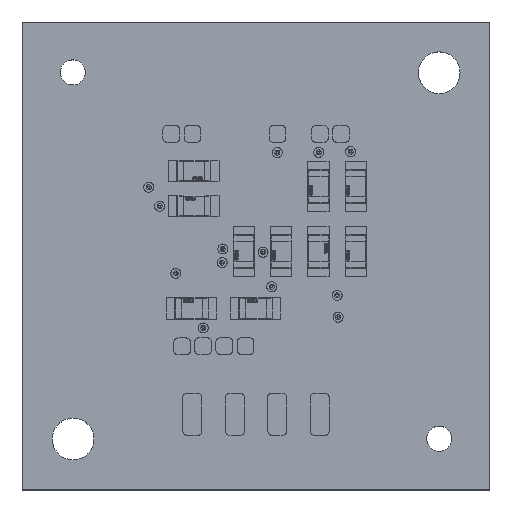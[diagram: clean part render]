
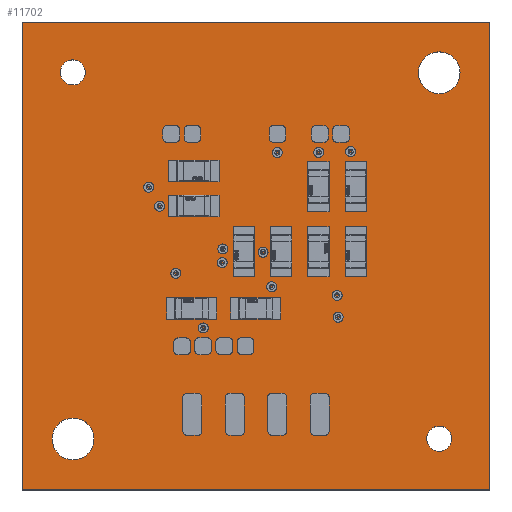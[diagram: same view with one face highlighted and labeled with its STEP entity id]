
A CAD part, top view. The second image highlights one B-rep face of the part: STEP entity #11702.
In plain terms, the highlighted planar face has unit normal (0, 0, 1).
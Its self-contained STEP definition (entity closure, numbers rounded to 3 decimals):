
#1083 = DIRECTION ( 'NONE',  ( 1., 0., 0. ) ) ;
#1353 = CARTESIAN_POINT ( 'NONE',  ( -11.719, 10.987, 0. ) ) ;
#2292 = CARTESIAN_POINT ( 'NONE',  ( 10.951, -10.933, 0. ) ) ;
#2314 = AXIS2_PLACEMENT_3D ( 'NONE', #2292, #83840, #14002 ) ;
#3750 = CARTESIAN_POINT ( 'NONE',  ( -12.205, -10.949, 0. ) ) ;
#4183 = DIRECTION ( 'NONE',  ( 0., 1., 0. ) ) ;
#5417 = ORIENTED_EDGE ( 'NONE', *, *, #71873, .T. ) ;
#6305 = EDGE_CURVE ( 'NONE', #137634, #25499, #51044, .T. ) ;
#6405 = CARTESIAN_POINT ( 'NONE',  ( -14.01, 14.002, 0. ) ) ;
#8314 = EDGE_CURVE ( 'NONE', #143144, #121462, #121235, .T. ) ;
#9367 = ORIENTED_EDGE ( 'NONE', *, *, #119108, .F. ) ;
#11702 = ADVANCED_FACE ( 'NONE', ( #46576, #136026, #77656, #74005, #42940 ), #93838, .T. ) ;
#13434 = CARTESIAN_POINT ( 'NONE',  ( 13.99, -13.998, 0. ) ) ;
#14002 = DIRECTION ( 'NONE',  ( -1., 0., 0. ) ) ;
#22916 = ORIENTED_EDGE ( 'NONE', *, *, #80443, .F. ) ;
#23209 = VECTOR ( 'NONE', #147215, 1000. ) ;
#25051 = AXIS2_PLACEMENT_3D ( 'NONE', #49608, #131217, #61347 ) ;
#25372 = CARTESIAN_POINT ( 'NONE',  ( -10.955, -10.949, 0. ) ) ;
#25499 = VERTEX_POINT ( 'NONE', #92734 ) ;
#25511 = AXIS2_PLACEMENT_3D ( 'NONE', #64858, #146386, #76581 ) ;
#31729 = CIRCLE ( 'NONE', #53578, 1.25 ) ;
#31851 = CARTESIAN_POINT ( 'NONE',  ( -14.01, -13.998, 0. ) ) ;
#32114 = VERTEX_POINT ( 'NONE', #1353 ) ;
#34339 = DIRECTION ( 'NONE',  ( 0., 0., -1. ) ) ;
#34576 = CARTESIAN_POINT ( 'NONE',  ( 10.201, -10.933, 0. ) ) ;
#34585 = CIRCLE ( 'NONE', #2314, 0.75 ) ;
#37075 = DIRECTION ( 'NONE',  ( -1., 0., 0. ) ) ;
#39782 = AXIS2_PLACEMENT_3D ( 'NONE', #140693, #70856, #1083 ) ;
#42010 = DIRECTION ( 'NONE',  ( 1., 0., 0. ) ) ;
#42226 = VERTEX_POINT ( 'NONE', #13434 ) ;
#42940 = FACE_OUTER_BOUND ( 'NONE', #52584, .T. ) ;
#43641 = EDGE_LOOP ( 'NONE', ( #72766, #54724 ) ) ;
#44922 = EDGE_CURVE ( 'NONE', #88584, #42226, #137749, .T. ) ;
#44941 = EDGE_CURVE ( 'NONE', #146548, #115351, #79403, .T. ) ;
#46421 = ORIENTED_EDGE ( 'NONE', *, *, #52316, .T. ) ;
#46479 = ORIENTED_EDGE ( 'NONE', *, *, #44941, .T. ) ;
#46576 = FACE_BOUND ( 'NONE', #72749, .T. ) ;
#46636 = ORIENTED_EDGE ( 'NONE', *, *, #6305, .F. ) ;
#47909 = ORIENTED_EDGE ( 'NONE', *, *, #124061, .T. ) ;
#49608 = CARTESIAN_POINT ( 'NONE',  ( -10.969, 10.987, 0. ) ) ;
#50237 = EDGE_LOOP ( 'NONE', ( #46479, #67581 ) ) ;
#51044 = LINE ( 'NONE', #74032, #140417 ) ;
#52316 = EDGE_CURVE ( 'NONE', #64451, #131757, #31729, .T. ) ;
#52584 = EDGE_LOOP ( 'NONE', ( #22916, #46636, #9367, #135435 ) ) ;
#53578 = AXIS2_PLACEMENT_3D ( 'NONE', #62384, #143986, #74159 ) ;
#53974 = CARTESIAN_POINT ( 'NONE',  ( 13.99, -13.998, 0. ) ) ;
#54724 = ORIENTED_EDGE ( 'NONE', *, *, #8314, .T. ) ;
#59484 = CARTESIAN_POINT ( 'NONE',  ( -9.705, -10.949, 0. ) ) ;
#61347 = DIRECTION ( 'NONE',  ( -1., 0., 0. ) ) ;
#62384 = CARTESIAN_POINT ( 'NONE',  ( 10.95, 10.966, 0. ) ) ;
#63280 = CARTESIAN_POINT ( 'NONE',  ( 9.7, 10.966, 0. ) ) ;
#63405 = DIRECTION ( 'NONE',  ( 0., 0., -1. ) ) ;
#63924 = CARTESIAN_POINT ( 'NONE',  ( 10.95, 10.966, 0. ) ) ;
#64451 = VERTEX_POINT ( 'NONE', #63280 ) ;
#64858 = CARTESIAN_POINT ( 'NONE',  ( -10.969, 10.987, 0. ) ) ;
#67581 = ORIENTED_EDGE ( 'NONE', *, *, #73228, .T. ) ;
#68381 = AXIS2_PLACEMENT_3D ( 'NONE', #63924, #145482, #75671 ) ;
#68529 = CARTESIAN_POINT ( 'NONE',  ( 12.2, 10.966, 0. ) ) ;
#68657 = AXIS2_PLACEMENT_3D ( 'NONE', #104209, #34339, #115951 ) ;
#70856 = DIRECTION ( 'NONE',  ( 0., 0., 1. ) ) ;
#71873 = EDGE_CURVE ( 'NONE', #121394, #32114, #119310, .T. ) ;
#72749 = EDGE_LOOP ( 'NONE', ( #46421, #47909 ) ) ;
#72766 = ORIENTED_EDGE ( 'NONE', *, *, #105460, .T. ) ;
#73228 = EDGE_CURVE ( 'NONE', #115351, #146548, #34585, .T. ) ;
#73449 = LINE ( 'NONE', #6405, #100875 ) ;
#74005 = FACE_BOUND ( 'NONE', #43641, .T. ) ;
#74032 = CARTESIAN_POINT ( 'NONE',  ( -14.01, -13.998, 0. ) ) ;
#74159 = DIRECTION ( 'NONE',  ( -1., 0., 0. ) ) ;
#75671 = DIRECTION ( 'NONE',  ( -1., 0., 0. ) ) ;
#76581 = DIRECTION ( 'NONE',  ( -1., 0., 0. ) ) ;
#77656 = FACE_BOUND ( 'NONE', #122487, .T. ) ;
#79403 = CIRCLE ( 'NONE', #68657, 0.75 ) ;
#80443 = EDGE_CURVE ( 'NONE', #25499, #88584, #73449, .T. ) ;
#83840 = DIRECTION ( 'NONE',  ( 0., 0., -1. ) ) ;
#88584 = VERTEX_POINT ( 'NONE', #140153 ) ;
#92734 = CARTESIAN_POINT ( 'NONE',  ( -14.01, 14.002, 0. ) ) ;
#93838 = PLANE ( 'NONE',  #39782 ) ;
#100875 = VECTOR ( 'NONE', #42010, 1000. ) ;
#104209 = CARTESIAN_POINT ( 'NONE',  ( 10.951, -10.933, 0. ) ) ;
#104239 = ORIENTED_EDGE ( 'NONE', *, *, #139129, .T. ) ;
#105460 = EDGE_CURVE ( 'NONE', #121462, #143144, #109046, .T. ) ;
#106739 = VECTOR ( 'NONE', #138399, 1000. ) ;
#106972 = DIRECTION ( 'NONE',  ( 0., 0., -1. ) ) ;
#108464 = CIRCLE ( 'NONE', #25051, 0.75 ) ;
#109046 = CIRCLE ( 'NONE', #126098, 1.25 ) ;
#115351 = VERTEX_POINT ( 'NONE', #118472 ) ;
#115951 = DIRECTION ( 'NONE',  ( -1., 0., 0. ) ) ;
#116262 = LINE ( 'NONE', #53974, #23209 ) ;
#118472 = CARTESIAN_POINT ( 'NONE',  ( 11.701, -10.933, 0. ) ) ;
#119108 = EDGE_CURVE ( 'NONE', #42226, #137634, #116262, .T. ) ;
#119310 = CIRCLE ( 'NONE', #25511, 0.75 ) ;
#121235 = CIRCLE ( 'NONE', #141815, 1.25 ) ;
#121394 = VERTEX_POINT ( 'NONE', #142397 ) ;
#121462 = VERTEX_POINT ( 'NONE', #3750 ) ;
#122487 = EDGE_LOOP ( 'NONE', ( #104239, #5417 ) ) ;
#124061 = EDGE_CURVE ( 'NONE', #131757, #64451, #137902, .T. ) ;
#126098 = AXIS2_PLACEMENT_3D ( 'NONE', #25372, #106972, #37075 ) ;
#131217 = DIRECTION ( 'NONE',  ( 0., 0., -1. ) ) ;
#131757 = VERTEX_POINT ( 'NONE', #68529 ) ;
#133238 = CARTESIAN_POINT ( 'NONE',  ( -10.955, -10.949, 0. ) ) ;
#135435 = ORIENTED_EDGE ( 'NONE', *, *, #44922, .F. ) ;
#136026 = FACE_BOUND ( 'NONE', #50237, .T. ) ;
#137634 = VERTEX_POINT ( 'NONE', #31851 ) ;
#137749 = LINE ( 'NONE', #137926, #106739 ) ;
#137902 = CIRCLE ( 'NONE', #68381, 1.25 ) ;
#137926 = CARTESIAN_POINT ( 'NONE',  ( 13.99, 14.002, 0. ) ) ;
#138399 = DIRECTION ( 'NONE',  ( 0., -1., 0. ) ) ;
#139129 = EDGE_CURVE ( 'NONE', #32114, #121394, #108464, .T. ) ;
#140153 = CARTESIAN_POINT ( 'NONE',  ( 13.99, 14.002, 0. ) ) ;
#140417 = VECTOR ( 'NONE', #4183, 1000. ) ;
#140693 = CARTESIAN_POINT ( 'NONE',  ( -14.01, -13.998, 0. ) ) ;
#141815 = AXIS2_PLACEMENT_3D ( 'NONE', #133238, #63405, #144955 ) ;
#142397 = CARTESIAN_POINT ( 'NONE',  ( -10.219, 10.987, 0. ) ) ;
#143144 = VERTEX_POINT ( 'NONE', #59484 ) ;
#143986 = DIRECTION ( 'NONE',  ( 0., 0., -1. ) ) ;
#144955 = DIRECTION ( 'NONE',  ( -1., 0., 0. ) ) ;
#145482 = DIRECTION ( 'NONE',  ( 0., 0., -1. ) ) ;
#146386 = DIRECTION ( 'NONE',  ( 0., 0., -1. ) ) ;
#146548 = VERTEX_POINT ( 'NONE', #34576 ) ;
#147215 = DIRECTION ( 'NONE',  ( -1., 0., 0. ) ) ;
